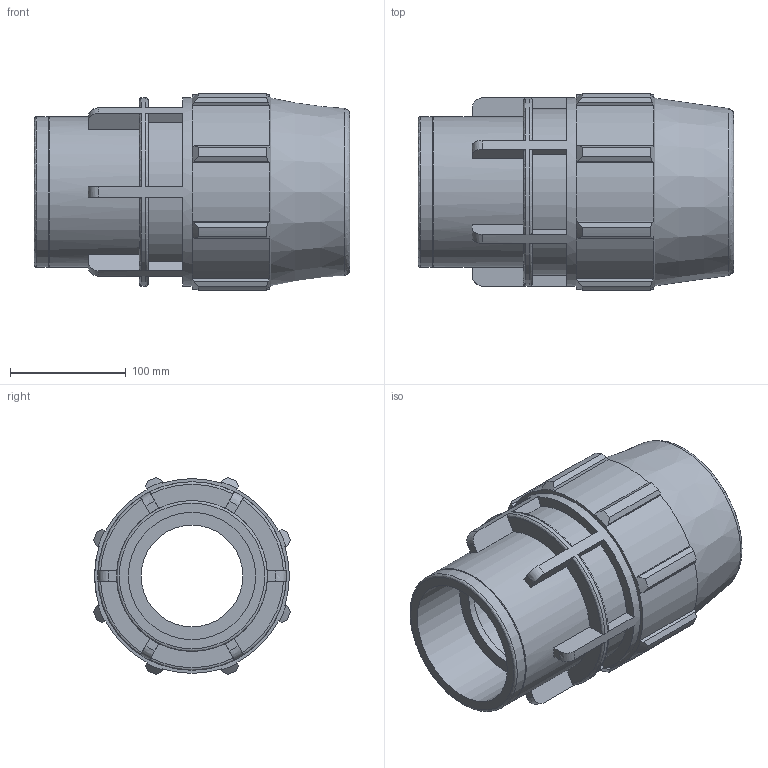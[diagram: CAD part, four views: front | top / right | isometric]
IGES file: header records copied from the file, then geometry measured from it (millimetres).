
Global section: file name: 870300110040_180300110040_840306110040.ipt; native system: Autodesk Inventor 2015; preprocessor: unknown; author: KIM; date: 20180325.201201; units: millimetre
Bounding box: 273 x 170.31 x 170.31 mm (x, y, z)
Volume: 2276205 mm3; surface area: 274325.6 mm2
Topology: 1 solids, 1 shells, 148 faces, 413 edges, 277 vertices
Faces by surface type: plane 86, revolution 25, cylinder 25, cone 12
Full cylindrical faces by diameter (mm): 130.32 x2, 162.9 x1
